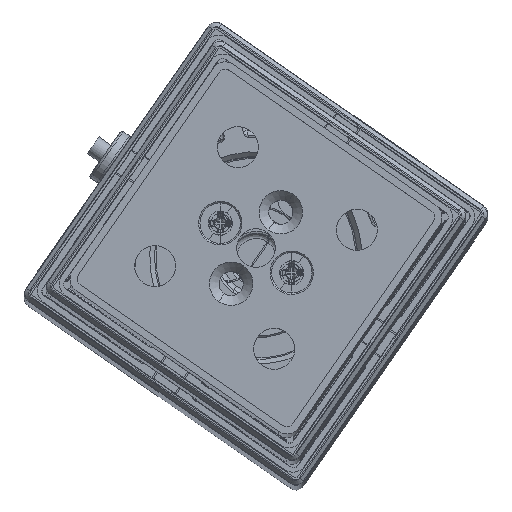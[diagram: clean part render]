
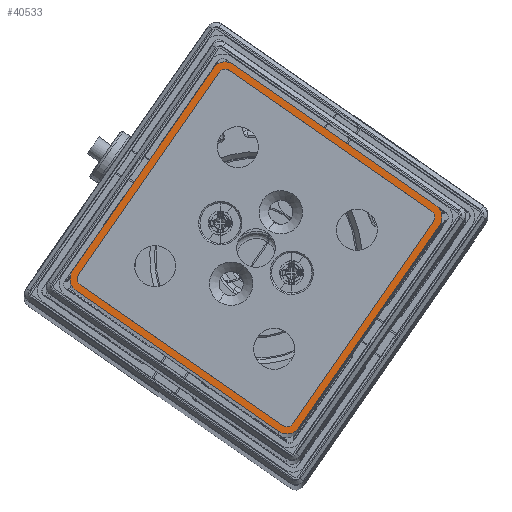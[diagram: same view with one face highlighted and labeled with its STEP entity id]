
A CAD part, top view. The second image highlights one B-rep face of the part: STEP entity #40533.
In plain terms, the highlighted planar face has unit normal (0, 0, 1) as drawn and (0, -1, 0) by its records, which use the part's own axes.
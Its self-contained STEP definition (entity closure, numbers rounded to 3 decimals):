
#98 = CARTESIAN_POINT ( 'NONE',  ( -25.5, 0., -27. ) ) ;
#537 = CIRCLE ( 'NONE', #11192, 1.5 ) ;
#2127 = VECTOR ( 'NONE', #62106, 1000. ) ;
#2466 = DIRECTION ( 'NONE',  ( 0., 0., -1. ) ) ;
#2903 = CARTESIAN_POINT ( 'NONE',  ( -25.5, 0., -25.5 ) ) ;
#3128 = CARTESIAN_POINT ( 'NONE',  ( -28.5, 0., 25.5 ) ) ;
#3498 = ORIENTED_EDGE ( 'NONE', *, *, #28946, .T. ) ;
#4864 = DIRECTION ( 'NONE',  ( 0., 1., 0. ) ) ;
#4974 = ORIENTED_EDGE ( 'NONE', *, *, #40968, .T. ) ;
#5116 = LINE ( 'NONE', #64622, #44154 ) ;
#5409 = CIRCLE ( 'NONE', #34167, 3. ) ;
#5544 = LINE ( 'NONE', #10431, #63616 ) ;
#6108 = VERTEX_POINT ( 'NONE', #53167 ) ;
#6911 = CARTESIAN_POINT ( 'NONE',  ( 28.5, 0., 28.5 ) ) ;
#7336 = DIRECTION ( 'NONE',  ( 0., 0., -1. ) ) ;
#7679 = CARTESIAN_POINT ( 'NONE',  ( 28.5, 0., -25.5 ) ) ;
#8738 = ORIENTED_EDGE ( 'NONE', *, *, #35312, .T. ) ;
#8866 = DIRECTION ( 'NONE',  ( 0., 0., -1. ) ) ;
#9498 = CARTESIAN_POINT ( 'NONE',  ( 27., 0., 27. ) ) ;
#9590 = CARTESIAN_POINT ( 'NONE',  ( -27., 0., 25.5 ) ) ;
#10309 = DIRECTION ( 'NONE',  ( 0., -1., 0. ) ) ;
#10431 = CARTESIAN_POINT ( 'NONE',  ( -27., 0., 27. ) ) ;
#11192 = AXIS2_PLACEMENT_3D ( 'NONE', #58974, #33580, #43437 ) ;
#11337 = ORIENTED_EDGE ( 'NONE', *, *, #44386, .F. ) ;
#12443 = DIRECTION ( 'NONE',  ( 0., 1., 0. ) ) ;
#12636 = AXIS2_PLACEMENT_3D ( 'NONE', #46050, #46267, #61374 ) ;
#12687 = VERTEX_POINT ( 'NONE', #56651 ) ;
#12725 = AXIS2_PLACEMENT_3D ( 'NONE', #2903, #12443, #2466 ) ;
#12755 = CARTESIAN_POINT ( 'NONE',  ( 25.5, 0., 27. ) ) ;
#12966 = DIRECTION ( 'NONE',  ( -1., 0., 0. ) ) ;
#14158 = VECTOR ( 'NONE', #16815, 1000. ) ;
#14468 = ORIENTED_EDGE ( 'NONE', *, *, #19011, .F. ) ;
#14524 = VERTEX_POINT ( 'NONE', #34345 ) ;
#15038 = CARTESIAN_POINT ( 'NONE',  ( -27., 0., 27. ) ) ;
#15157 = CIRCLE ( 'NONE', #56719, 3. ) ;
#15260 = VERTEX_POINT ( 'NONE', #36448 ) ;
#15559 = DIRECTION ( 'NONE',  ( 1., 0., 0. ) ) ;
#16815 = DIRECTION ( 'NONE',  ( 0., 0., 1. ) ) ;
#17229 = VERTEX_POINT ( 'NONE', #98 ) ;
#18793 = FACE_BOUND ( 'NONE', #26111, .T. ) ;
#19011 = EDGE_CURVE ( 'NONE', #37363, #28912, #30735, .T. ) ;
#19303 = VECTOR ( 'NONE', #19698, 1000. ) ;
#19310 = CARTESIAN_POINT ( 'NONE',  ( -25.5, 0., 25.5 ) ) ;
#19698 = DIRECTION ( 'NONE',  ( 0., 0., -1. ) ) ;
#20151 = ORIENTED_EDGE ( 'NONE', *, *, #27933, .T. ) ;
#20187 = EDGE_CURVE ( 'NONE', #23109, #34873, #22658, .T. ) ;
#20251 = CARTESIAN_POINT ( 'NONE',  ( 25.5, 0., -28.5 ) ) ;
#20988 = CARTESIAN_POINT ( 'NONE',  ( 27., 0., -25.5 ) ) ;
#21932 = LINE ( 'NONE', #15038, #65763 ) ;
#22294 = ORIENTED_EDGE ( 'NONE', *, *, #42264, .T. ) ;
#22658 = CIRCLE ( 'NONE', #62361, 1.5 ) ;
#23109 = VERTEX_POINT ( 'NONE', #9590 ) ;
#26111 = EDGE_LOOP ( 'NONE', ( #4974, #28754, #54316, #3498, #32116, #64249, #22294, #33384 ) ) ;
#27518 = CARTESIAN_POINT ( 'NONE',  ( -27., 0., -25.5 ) ) ;
#27656 = LINE ( 'NONE', #36584, #14158 ) ;
#27933 = EDGE_CURVE ( 'NONE', #14524, #54906, #5409, .T. ) ;
#28754 = ORIENTED_EDGE ( 'NONE', *, *, #20187, .T. ) ;
#28912 = VERTEX_POINT ( 'NONE', #42583 ) ;
#28946 = EDGE_CURVE ( 'NONE', #30951, #12687, #537, .T. ) ;
#29053 = CARTESIAN_POINT ( 'NONE',  ( -25.5, 0., 25.5 ) ) ;
#29582 = DIRECTION ( 'NONE',  ( 0., -1., 0. ) ) ;
#30359 = VERTEX_POINT ( 'NONE', #27518 ) ;
#30735 = LINE ( 'NONE', #34364, #33177 ) ;
#30951 = VERTEX_POINT ( 'NONE', #12755 ) ;
#31159 = CARTESIAN_POINT ( 'NONE',  ( -25.5, 0., -25.5 ) ) ;
#31991 = LINE ( 'NONE', #9498, #19303 ) ;
#32116 = ORIENTED_EDGE ( 'NONE', *, *, #55571, .T. ) ;
#32365 = CIRCLE ( 'NONE', #47394, 3. ) ;
#33177 = VECTOR ( 'NONE', #65106, 1000. ) ;
#33384 = ORIENTED_EDGE ( 'NONE', *, *, #42822, .T. ) ;
#33580 = DIRECTION ( 'NONE',  ( 0., 1., 0. ) ) ;
#33588 = CIRCLE ( 'NONE', #12725, 1.5 ) ;
#34167 = AXIS2_PLACEMENT_3D ( 'NONE', #29053, #64726, #8866 ) ;
#34345 = CARTESIAN_POINT ( 'NONE',  ( -25.5, 0., 28.5 ) ) ;
#34364 = CARTESIAN_POINT ( 'NONE',  ( -28.5, 0., -28.5 ) ) ;
#34873 = VERTEX_POINT ( 'NONE', #37923 ) ;
#35037 = VERTEX_POINT ( 'NONE', #7679 ) ;
#35312 = EDGE_CURVE ( 'NONE', #15260, #28912, #32365, .T. ) ;
#36448 = CARTESIAN_POINT ( 'NONE',  ( -28.5, 0., -25.5 ) ) ;
#36555 = ORIENTED_EDGE ( 'NONE', *, *, #60072, .F. ) ;
#36584 = CARTESIAN_POINT ( 'NONE',  ( -28.5, 0., 28.5 ) ) ;
#37158 = DIRECTION ( 'NONE',  ( 0., 1., 0. ) ) ;
#37363 = VERTEX_POINT ( 'NONE', #20251 ) ;
#37923 = CARTESIAN_POINT ( 'NONE',  ( -25.5, 0., 27. ) ) ;
#38817 = ORIENTED_EDGE ( 'NONE', *, *, #44095, .T. ) ;
#40533 = ADVANCED_FACE ( 'NONE', ( #49858, #18793 ), #55843, .T. ) ;
#40730 = ORIENTED_EDGE ( 'NONE', *, *, #59547, .F. ) ;
#40968 = EDGE_CURVE ( 'NONE', #30359, #23109, #21932, .T. ) ;
#41680 = DIRECTION ( 'NONE',  ( 0., 0., -1. ) ) ;
#42264 = EDGE_CURVE ( 'NONE', #6108, #17229, #5116, .T. ) ;
#42583 = CARTESIAN_POINT ( 'NONE',  ( -25.5, 0., -28.5 ) ) ;
#42822 = EDGE_CURVE ( 'NONE', #17229, #30359, #33588, .T. ) ;
#43437 = DIRECTION ( 'NONE',  ( 0., 0., -1. ) ) ;
#43806 = VECTOR ( 'NONE', #46755, 1000. ) ;
#44095 = EDGE_CURVE ( 'NONE', #59248, #58690, #64559, .T. ) ;
#44154 = VECTOR ( 'NONE', #12966, 1000. ) ;
#44386 = EDGE_CURVE ( 'NONE', #59248, #35037, #60513, .T. ) ;
#44583 = DIRECTION ( 'NONE',  ( 0., 0., -1. ) ) ;
#46050 = CARTESIAN_POINT ( 'NONE',  ( 28.5, 0., -28.5 ) ) ;
#46267 = DIRECTION ( 'NONE',  ( 0., -1., 0. ) ) ;
#46508 = AXIS2_PLACEMENT_3D ( 'NONE', #50125, #29582, #44583 ) ;
#46755 = DIRECTION ( 'NONE',  ( 0., 0., -1. ) ) ;
#47394 = AXIS2_PLACEMENT_3D ( 'NONE', #31159, #10309, #41680 ) ;
#48095 = EDGE_CURVE ( 'NONE', #37363, #35037, #15157, .T. ) ;
#48521 = CARTESIAN_POINT ( 'NONE',  ( 25.5, 0., 28.5 ) ) ;
#49858 = FACE_OUTER_BOUND ( 'NONE', #60831, .T. ) ;
#50125 = CARTESIAN_POINT ( 'NONE',  ( 25.5, 0., 25.5 ) ) ;
#52327 = CARTESIAN_POINT ( 'NONE',  ( 25.5, 0., -25.5 ) ) ;
#53167 = CARTESIAN_POINT ( 'NONE',  ( 25.5, 0., -27. ) ) ;
#54316 = ORIENTED_EDGE ( 'NONE', *, *, #58095, .T. ) ;
#54881 = CIRCLE ( 'NONE', #56316, 1.5 ) ;
#54906 = VERTEX_POINT ( 'NONE', #3128 ) ;
#55571 = EDGE_CURVE ( 'NONE', #12687, #60047, #31991, .T. ) ;
#55843 = PLANE ( 'NONE',  #12636 ) ;
#56316 = AXIS2_PLACEMENT_3D ( 'NONE', #52327, #37158, #57183 ) ;
#56651 = CARTESIAN_POINT ( 'NONE',  ( 27., 0., 25.5 ) ) ;
#56719 = AXIS2_PLACEMENT_3D ( 'NONE', #57599, #62920, #7336 ) ;
#56978 = CARTESIAN_POINT ( 'NONE',  ( -28.5, 0., 28.5 ) ) ;
#57183 = DIRECTION ( 'NONE',  ( 0., 0., -1. ) ) ;
#57599 = CARTESIAN_POINT ( 'NONE',  ( 25.5, 0., -25.5 ) ) ;
#58095 = EDGE_CURVE ( 'NONE', #34873, #30951, #5544, .T. ) ;
#58411 = ORIENTED_EDGE ( 'NONE', *, *, #48095, .T. ) ;
#58690 = VERTEX_POINT ( 'NONE', #48521 ) ;
#58974 = CARTESIAN_POINT ( 'NONE',  ( 25.5, 0., 25.5 ) ) ;
#59248 = VERTEX_POINT ( 'NONE', #60693 ) ;
#59421 = LINE ( 'NONE', #56978, #2127 ) ;
#59547 = EDGE_CURVE ( 'NONE', #15260, #54906, #27656, .T. ) ;
#60047 = VERTEX_POINT ( 'NONE', #20988 ) ;
#60072 = EDGE_CURVE ( 'NONE', #14524, #58690, #59421, .T. ) ;
#60252 = DIRECTION ( 'NONE',  ( 0., 0., -1. ) ) ;
#60513 = LINE ( 'NONE', #6911, #43806 ) ;
#60661 = DIRECTION ( 'NONE',  ( 0., 0., 1. ) ) ;
#60693 = CARTESIAN_POINT ( 'NONE',  ( 28.5, 0., 25.5 ) ) ;
#60831 = EDGE_LOOP ( 'NONE', ( #14468, #58411, #11337, #38817, #36555, #20151, #40730, #8738 ) ) ;
#61374 = DIRECTION ( 'NONE',  ( 0., 0., -1. ) ) ;
#62106 = DIRECTION ( 'NONE',  ( 1., 0., 0. ) ) ;
#62361 = AXIS2_PLACEMENT_3D ( 'NONE', #19310, #4864, #60252 ) ;
#62920 = DIRECTION ( 'NONE',  ( 0., -1., 0. ) ) ;
#63616 = VECTOR ( 'NONE', #15559, 1000. ) ;
#64249 = ORIENTED_EDGE ( 'NONE', *, *, #65444, .T. ) ;
#64559 = CIRCLE ( 'NONE', #46508, 3. ) ;
#64622 = CARTESIAN_POINT ( 'NONE',  ( -27., 0., -27. ) ) ;
#64726 = DIRECTION ( 'NONE',  ( 0., -1., 0. ) ) ;
#65106 = DIRECTION ( 'NONE',  ( -1., 0., 0. ) ) ;
#65444 = EDGE_CURVE ( 'NONE', #60047, #6108, #54881, .T. ) ;
#65763 = VECTOR ( 'NONE', #60661, 1000. ) ;
